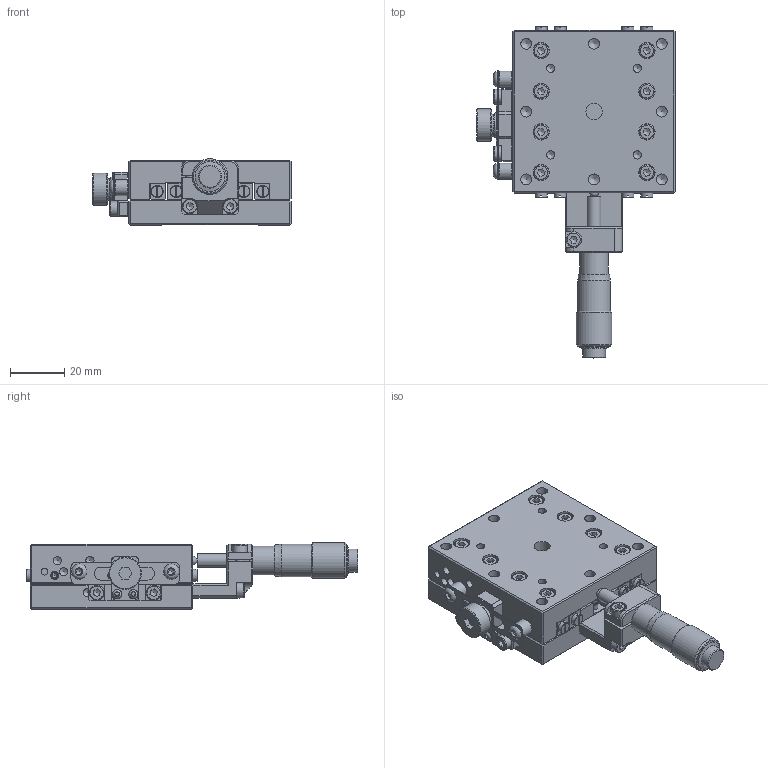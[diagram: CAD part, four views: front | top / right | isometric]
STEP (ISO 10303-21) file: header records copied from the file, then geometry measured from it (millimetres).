
FILE_DESCRIPTION((''),'2;1');
FILE_NAME('D:\9_3D도면\1_DPIn\4_2015\0.2015_STAGE\2. Manual Stage\1. AL-Stage\S1\S1-6024\S1-6024C(2015).stp','2016-07-25T15:33:49',('user'),(''),'Autodesk Inventor 2010','Autodesk Inventor 2010','');
FILE_SCHEMA(('CONFIG_CONTROL_DESIGN'));
Length unit declared in the file: millimetre
Products named in the file (3): S1-6024C(2015) 조립품001-2016.07; S1-6024C(2015) UNDER-2016.07; S1-6024C(2015) UPPER-2016.07
Assembly tree (2 placements, depth 2):
  S1-6024C(2015) 조립품001-2016.07
    S1-6024C(2015) UNDER-2016.07
    S1-6024C(2015) UPPER-2016.07
Bounding box: 73.3 x 122.5 x 24.59 mm (x, y, z)
Volume: 88667.3 mm3; surface area: 45732.7 mm2
Topology: 36 solids, 40 shells, 1068 faces, 2528 edges, 1636 vertices
Faces by surface type: plane 635, cylinder 166, bspline 144, cone 83, torus 37, sphere 3
Full cylindrical faces by diameter (mm): 2 x4, 2.55 x12, 3 x30, 3.2 x3, 3.4 x21, 4 x1, 4.4 x16, 4.5 x6, 5 x1, 5.5 x21, 5.7 x2, 6 x10, 8 x5, 8.5 x1, 9 x2, 9.5 x1, 10.7 x1, 11 x1, 12 x1, 12.1 x1, 13.2 x1
Entity records: 30212 total; most frequent: CARTESIAN_POINT 7815, DIRECTION 4348, ORIENTED_EDGE 3992, EDGE_CURVE 1996, EDGE_LOOP 1635, AXIS2_PLACEMENT_3D 1579, VERTEX_POINT 1479, VECTOR 1190
